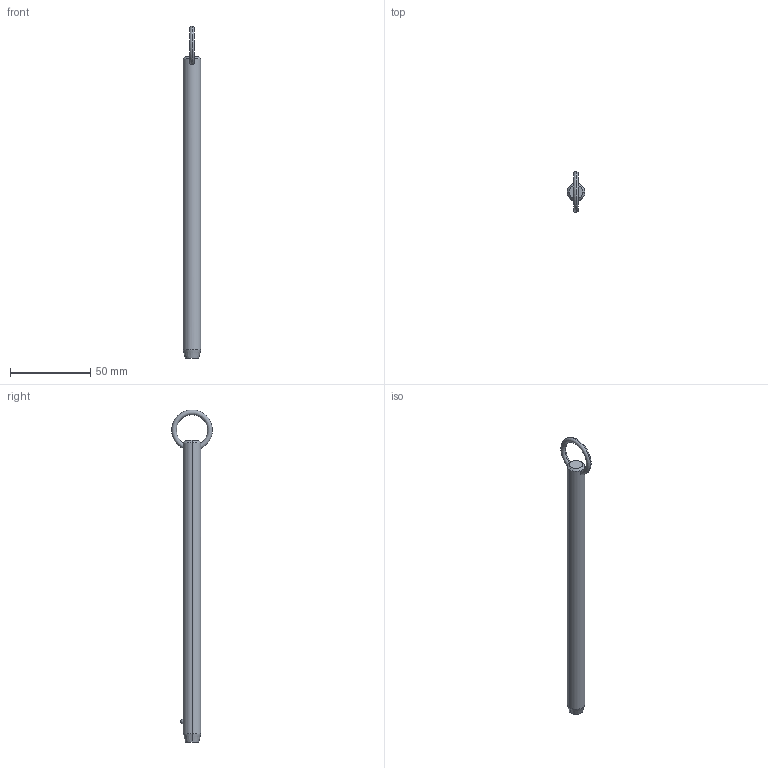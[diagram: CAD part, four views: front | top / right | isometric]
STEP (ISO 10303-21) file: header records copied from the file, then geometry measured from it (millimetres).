
FILE_DESCRIPTION (( 'STEP AP203' ), '1' );
FILE_NAME ('P1250.050-660.step', '2019-07-29T20:42:24', ( '' ), ( '' ), 'SwSTEP 2.0', 'SolidWorks 2017', '' );
FILE_SCHEMA (( 'CONFIG_CONTROL_DESIGN' ));
Length unit declared in the file: millimetre
Products named in the file (1): P1250.050-660
Bounding box: 11.1 x 25.32 x 207.15 mm (x, y, z)
Volume: 18494.6 mm3; surface area: 7215.5 mm2
Topology: 1 solids, 1 shells, 12 faces, 28 edges, 17 vertices
Faces by surface type: cone 4, torus 2, sphere 2, cylinder 2, plane 2
Entity records: 523 total; most frequent: CARTESIAN_POINT 190, DIRECTION 56, ORIENTED_EDGE 48, AXIS2_PLACEMENT_3D 25, EDGE_CURVE 24, EDGE_LOOP 15, VERTEX_POINT 15, ADVANCED_FACE 12
